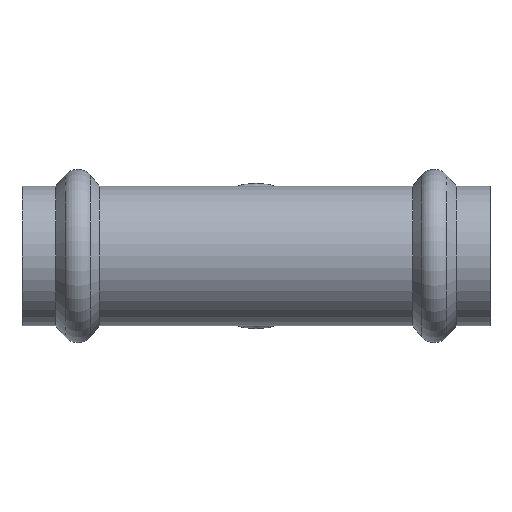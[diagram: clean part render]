
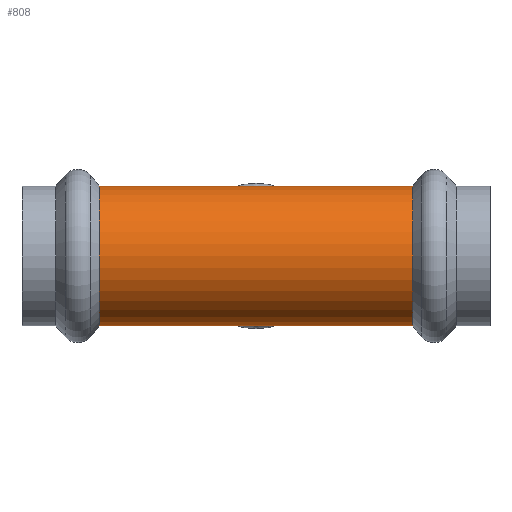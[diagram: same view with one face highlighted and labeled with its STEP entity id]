
A CAD part, front view. The second image highlights one B-rep face of the part: STEP entity #808.
In plain terms, the highlighted cylindrical face has radius 12.55 mm (diameter 25.1 mm), a partial arc.
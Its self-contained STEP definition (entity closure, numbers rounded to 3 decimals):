
#277 = ORIENTED_EDGE ( 'NONE', *, *, #699, .F. ) ;
#363 = CARTESIAN_POINT ( 'NONE',  ( -28.095, 0., -12.55 ) ) ;
#605 = ORIENTED_EDGE ( 'NONE', *, *, #2752, .T. ) ;
#699 = EDGE_CURVE ( 'NONE', #1260, #2071, #2091, .T. ) ;
#808 = ADVANCED_FACE ( 'NONE', ( #2454 ), #2549, .T. ) ;
#914 = EDGE_LOOP ( 'NONE', ( #277, #3549, #605, #1296 ) ) ;
#1094 = DIRECTION ( 'NONE',  ( -1., 0., 0. ) ) ;
#1107 = EDGE_CURVE ( 'NONE', #1260, #1233, #2879, .T. ) ;
#1109 = CARTESIAN_POINT ( 'NONE',  ( -58.611, 0., 12.55 ) ) ;
#1196 = CARTESIAN_POINT ( 'NONE',  ( -28.095, 0., 12.55 ) ) ;
#1233 = VERTEX_POINT ( 'NONE', #4317 ) ;
#1260 = VERTEX_POINT ( 'NONE', #4355 ) ;
#1296 = ORIENTED_EDGE ( 'NONE', *, *, #3043, .T. ) ;
#1374 = AXIS2_PLACEMENT_3D ( 'NONE', #4201, #4101, #1512 ) ;
#1512 = DIRECTION ( 'NONE',  ( 0., 0., -1. ) ) ;
#1912 = AXIS2_PLACEMENT_3D ( 'NONE', #2209, #2007, #2137 ) ;
#1997 = CARTESIAN_POINT ( 'NONE',  ( -28.095, 0., 0. ) ) ;
#2004 = DIRECTION ( 'NONE',  ( 1., 0., 0. ) ) ;
#2007 = DIRECTION ( 'NONE',  ( -1., 0., 0. ) ) ;
#2008 = DIRECTION ( 'NONE',  ( 0., 0., 1. ) ) ;
#2071 = VERTEX_POINT ( 'NONE', #363 ) ;
#2091 = LINE ( 'NONE', #3850, #2282 ) ;
#2126 = LINE ( 'NONE', #1109, #3546 ) ;
#2137 = DIRECTION ( 'NONE',  ( 0., 0., 1. ) ) ;
#2209 = CARTESIAN_POINT ( 'NONE',  ( -58.611, 0., 0. ) ) ;
#2282 = VECTOR ( 'NONE', #3934, 1000. ) ;
#2454 = FACE_OUTER_BOUND ( 'NONE', #914, .T. ) ;
#2549 = CYLINDRICAL_SURFACE ( 'NONE', #1912, 12.55 ) ;
#2752 = EDGE_CURVE ( 'NONE', #1233, #2759, #2126, .T. ) ;
#2759 = VERTEX_POINT ( 'NONE', #1196 ) ;
#2879 = CIRCLE ( 'NONE', #1374, 12.55 ) ;
#2999 = AXIS2_PLACEMENT_3D ( 'NONE', #1997, #2004, #2008 ) ;
#3043 = EDGE_CURVE ( 'NONE', #2759, #2071, #3776, .T. ) ;
#3546 = VECTOR ( 'NONE', #1094, 1000. ) ;
#3549 = ORIENTED_EDGE ( 'NONE', *, *, #1107, .T. ) ;
#3776 = CIRCLE ( 'NONE', #2999, 12.55 ) ;
#3850 = CARTESIAN_POINT ( 'NONE',  ( -58.611, 0., -12.55 ) ) ;
#3934 = DIRECTION ( 'NONE',  ( -1., 0., 0. ) ) ;
#4101 = DIRECTION ( 'NONE',  ( -1., 0., 0. ) ) ;
#4201 = CARTESIAN_POINT ( 'NONE',  ( 28.095, 0., 0. ) ) ;
#4317 = CARTESIAN_POINT ( 'NONE',  ( 28.095, 0., 12.55 ) ) ;
#4355 = CARTESIAN_POINT ( 'NONE',  ( 28.095, 0., -12.55 ) ) ;
